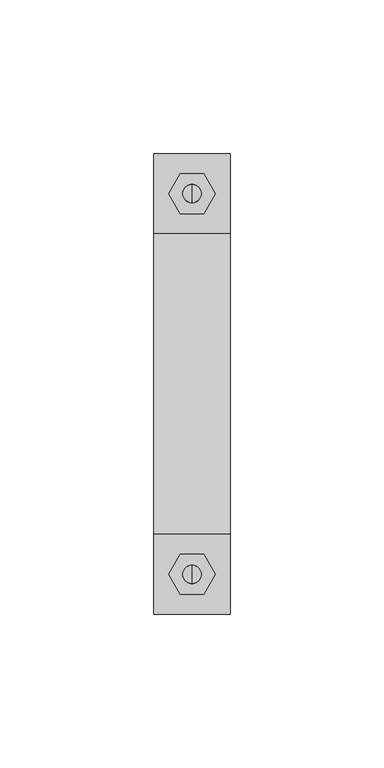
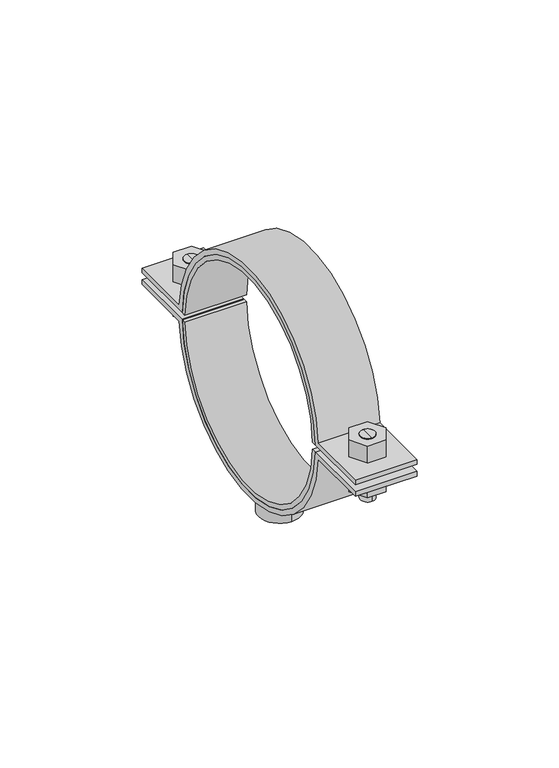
"""IFC4 building model written with IfcOpenShell, lengths in millimetres: valve geometry, Superfix DG2 Clamp (based on pipe) : Superfix DG2 Clamp (based on pipe)."""

from ifc_helpers import new_model, si_unit, point, frame, frame_2d, origin, origin_2d, place, context, project, spatial, polyline, circle_curve, trimmed, segment, composite_curve, outline, extrude, source, transform, mapped, element, save
from ifc_brep_helpers import plane_surface, cylinder_surface, advanced_brep


def valve_4bb747ad(model_context):
    return source(origin(), model_context, "Body", "SolidModel", [
        advanced_brep(
        [(0.0, 65.0, 342.4002332), (0.0, 59.0, 342.4002332), (0.0, 59.0, 357.0002332), (0.0, 65.0, 357.0002332), (0.0, 62.0, 342.4002332)],
        [
            (0, 1, circle_curve(frame((0.0, 62.0, 342.4002332), z_axis=(0.0, 0.0, 1.0), x_axis=(0.0, 1.0, 0.0)), 3.0)),
            (1, 2),
            (2, 3, circle_curve(frame((0.0, 62.0, 357.0002332), z_axis=(0.0, 0.0, -1.0), x_axis=(0.0, 1.0, 0.0)), 3.0)),
            (3, 0),
            (1, 0, circle_curve(frame((0.0, 62.0, 342.4002332), z_axis=(0.0, 0.0, 1.0), x_axis=(0.0, 1.0, 0.0)), 3.0)),
            (3, 2, circle_curve(frame((0.0, 62.0, 357.0002332), z_axis=(0.0, 0.0, -1.0), x_axis=(0.0, 1.0, 0.0)), 3.0)),
            (0, 4),
            (4, 1),
        ],
        [
            cylinder_surface(frame((0.0, 62.0, 356.7808426), z_axis=(0.0, 0.0, 1.0), x_axis=(0.0, 1.0, 0.0)), 3.0),
            plane_surface(frame((0.0, 62.0, 342.4002332), z_axis=(0.0, 0.0, -1.0), x_axis=(0.0, 1.0, 0.0))),
            plane_surface(frame((13.75, -75.0, 357.0002332), z_axis=(0.0, 0.0, 1.0), x_axis=(-1.0, 0.0, 0.0))),
        ],
        [
            (0, [[1, 2, 3, 4]]),
            (0, [[5, -4, 6, -2]]),
            (1, [[-1, 7, 8]]),
            (1, [[-5, -8, -7]]),
            (2, [[-3, -6]]),
        ],
    ),
        advanced_brep(
        [(0.0, 59.0, 369.6002332), (0.0, 65.0, 369.6002332), (0.0, 65.0, 360.0002332), (0.0, 59.0, 360.0002332), (0.0, 62.0, 369.6002332)],
        [
            (0, 1, circle_curve(frame((0.0, 62.0, 369.6002332), z_axis=(0.0, 0.0, -1.0), x_axis=(0.0, 1.0, 0.0)), 3.0)),
            (1, 2),
            (2, 3, circle_curve(frame((0.0, 62.0, 360.0002332), z_axis=(0.0, 0.0, 1.0), x_axis=(0.0, 1.0, 0.0)), 3.0)),
            (3, 0),
            (1, 0, circle_curve(frame((0.0, 62.0, 369.6002332), z_axis=(0.0, 0.0, -1.0), x_axis=(0.0, 1.0, 0.0)), 3.0)),
            (3, 2, circle_curve(frame((0.0, 62.0, 360.0002332), z_axis=(0.0, 0.0, 1.0), x_axis=(0.0, 1.0, 0.0)), 3.0)),
            (0, 4),
            (4, 1),
        ],
        [
            cylinder_surface(frame((0.0, 62.0, 356.7808426), z_axis=(0.0, 0.0, 1.0), x_axis=(0.0, 1.0, 0.0)), 3.0),
            plane_surface(frame((0.0, 62.0, 369.6002332), z_axis=(0.0, 0.0, 1.0), x_axis=(0.0, 1.0, 0.0))),
            plane_surface(frame((13.75, 75.0, 360.0002332), z_axis=(0.0, 0.0, -1.0), x_axis=(-1.0, 0.0, 0.0))),
        ],
        [
            (0, [[1, 2, 3, 4]]),
            (0, [[5, -4, 6, -2]]),
            (1, [[-1, 7, 8]]),
            (1, [[-5, -8, -7]]),
            (2, [[-3, -6]]),
        ],
    ),
        advanced_brep(
        [(0.0, -65.0, 369.6002332), (0.0, -59.0, 369.6002332), (0.0, -59.0, 360.0002332), (0.0, -65.0, 360.0002332), (0.0, -62.0, 369.6002332)],
        [
            (0, 1, circle_curve(frame((0.0, -62.0, 369.6002332), z_axis=(0.0, 0.0, -1.0), x_axis=(0.0, -1.0, 0.0)), 3.0)),
            (1, 2),
            (2, 3, circle_curve(frame((0.0, -62.0, 360.0002332), z_axis=(0.0, 0.0, 1.0), x_axis=(0.0, -1.0, 0.0)), 3.0)),
            (3, 0),
            (1, 0, circle_curve(frame((0.0, -62.0, 369.6002332), z_axis=(0.0, 0.0, -1.0), x_axis=(0.0, -1.0, 0.0)), 3.0)),
            (3, 2, circle_curve(frame((0.0, -62.0, 360.0002332), z_axis=(0.0, 0.0, 1.0), x_axis=(0.0, -1.0, 0.0)), 3.0)),
            (0, 4),
            (4, 1),
        ],
        [
            cylinder_surface(frame((0.0, -62.0, 356.7808426), z_axis=(0.0, 0.0, -1.0), x_axis=(0.0, -1.0, 0.0)), 3.0),
            plane_surface(frame((0.0, -62.0, 369.6002332), z_axis=(0.0, 0.0, 1.0), x_axis=(0.0, -1.0, 0.0))),
            plane_surface(frame((13.75, 75.0, 360.0002332), z_axis=(0.0, 0.0, -1.0), x_axis=(-1.0, 0.0, 0.0))),
        ],
        [
            (0, [[1, 2, 3, 4]]),
            (0, [[5, -4, 6, -2]]),
            (1, [[-1, 7, 8]]),
            (1, [[-5, -8, -7]]),
            (2, [[-3, -6]]),
        ],
    ),
        advanced_brep(
        [(0.0, -59.0, 342.4002332), (0.0, -65.0, 342.4002332), (0.0, -65.0, 357.0002332), (0.0, -59.0, 357.0002332), (0.0, -62.0, 342.4002332)],
        [
            (0, 1, circle_curve(frame((0.0, -62.0, 342.4002332), z_axis=(0.0, 0.0, 1.0), x_axis=(0.0, -1.0, 0.0)), 3.0)),
            (1, 2),
            (2, 3, circle_curve(frame((0.0, -62.0, 357.0002332), z_axis=(0.0, 0.0, -1.0), x_axis=(0.0, -1.0, 0.0)), 3.0)),
            (3, 0),
            (1, 0, circle_curve(frame((0.0, -62.0, 342.4002332), z_axis=(0.0, 0.0, 1.0), x_axis=(0.0, -1.0, 0.0)), 3.0)),
            (3, 2, circle_curve(frame((0.0, -62.0, 357.0002332), z_axis=(0.0, 0.0, -1.0), x_axis=(0.0, -1.0, 0.0)), 3.0)),
            (0, 4),
            (4, 1),
        ],
        [
            cylinder_surface(frame((0.0, -62.0, 356.7808426), z_axis=(0.0, 0.0, -1.0), x_axis=(0.0, -1.0, 0.0)), 3.0),
            plane_surface(frame((0.0, -62.0, 342.4002332), z_axis=(0.0, 0.0, -1.0), x_axis=(0.0, -1.0, 0.0))),
            plane_surface(frame((13.75, -75.0, 357.0002332), z_axis=(0.0, 0.0, 1.0), x_axis=(-1.0, 0.0, 0.0))),
        ],
        [
            (0, [[1, 2, 3, 4]]),
            (0, [[5, -4, 6, -2]]),
            (1, [[-1, 7, 8]]),
            (1, [[-5, -8, -7]]),
            (2, [[-3, -6]]),
        ],
    ),
        extrude(outline(composite_curve([segment(trimmed(circle_curve(frame_2d((0.0, 358.5002332)), 47.0), [point((-46.9760577, 357.0002332))], [point((46.9760577, 357.0002332))], True, "CARTESIAN"), True, "CONTINUOUS"), segment(polyline([(46.9760577, 357.0002332), (75.0, 357.0002332), (75.0, 355.0002332), (48.8748402, 355.0002332)]), True, "CONTINUOUS"), segment(trimmed(circle_curve(frame_2d((0.0, 358.5002332)), 49.0), [point((48.8748402, 355.0002332))], [point((-48.8748402, 355.0002332))], False, "CARTESIAN"), True, "CONTINUOUS"), segment(polyline([(-48.8748402, 355.0002332), (-75.0, 355.0002332), (-75.0, 357.0002332), (-46.9760577, 357.0002332)]), True, "CONTINUOUS")], self_intersect=False)), frame((-12.5, 0.0, 0.0), z_axis=(1.0, 0.0, 0.0), x_axis=(0.0, 1.0, 0.0)), (0.0, 0.0, 1.0), 25.0),
        extrude(outline(composite_curve([segment(trimmed(circle_curve(frame_2d((0.0, 358.5002332)), 47.0), [point((46.9760577, 360.0002332))], [point((-46.9760577, 360.0002332))], True, "CARTESIAN"), True, "CONTINUOUS"), segment(polyline([(-46.9760577, 360.0002332), (-75.0, 360.0002332), (-75.0, 362.0002332), (-48.8748402, 362.0002332)]), True, "CONTINUOUS"), segment(trimmed(circle_curve(frame_2d((0.0, 358.5002332)), 49.0), [point((-48.8748402, 362.0002332))], [point((48.8748402, 362.0002332))], False, "CARTESIAN"), True, "CONTINUOUS"), segment(polyline([(48.8748402, 362.0002332), (75.0, 362.0002332), (75.0, 360.0002332), (46.9760577, 360.0002332)]), True, "CONTINUOUS")], self_intersect=False)), frame((-12.5, 0.0, 0.0), z_axis=(1.0, 0.0, 0.0), x_axis=(0.0, 1.0, 0.0)), (0.0, 0.0, 1.0), 25.0),
        extrude(outline(polyline([(7.5055535, -62.0), (3.7527767, -68.5), (-3.7527767, -68.5), (-7.5055535, -62.0), (-3.7527767, -55.5), (3.7527767, -55.5), (7.5055535, -62.0)]), holes=[composite_curve([segment(trimmed(circle_curve(frame_2d((0.0, -62.0)), 3.0), [point((3.0, -62.0))], [point((-3.0, -62.0))], True, "CARTESIAN"), True, "CONTINUOUS"), segment(trimmed(circle_curve(frame_2d((0.0, -62.0)), 3.0), [point((-3.0, -62.0))], [point((3.0, -62.0))], True, "CARTESIAN"), True, "CONTINUOUS")], self_intersect=False)]), frame((0.0, 0.0, 362.0002332), z_axis=(0.0, 0.0, 1.0), x_axis=(1.0, 0.0, 0.0)), (0.0, 0.0, 1.0), 7.6),
        extrude(outline(polyline([(7.5055535, 62.0), (3.7527767, 55.5), (-3.7527767, 55.5), (-7.5055535, 62.0), (-3.7527767, 68.5), (3.7527767, 68.5), (7.5055535, 62.0)]), holes=[composite_curve([segment(trimmed(circle_curve(frame_2d((0.0, 62.0)), 3.0), [point((3.0, 62.0))], [point((-3.0, 62.0))], True, "CARTESIAN"), True, "CONTINUOUS"), segment(trimmed(circle_curve(frame_2d((0.0, 62.0)), 3.0), [point((-3.0, 62.0))], [point((3.0, 62.0))], True, "CARTESIAN"), True, "CONTINUOUS")], self_intersect=False)]), frame((0.0, 0.0, 362.0002332), z_axis=(0.0, 0.0, 1.0), x_axis=(1.0, 0.0, 0.0)), (0.0, 0.0, 1.0), 7.6),
        extrude(outline(polyline([(7.5055535, -62.0), (3.7527767, -68.5), (-3.7527767, -68.5), (-7.5055535, -62.0), (-3.7527767, -55.5), (3.7527767, -55.5), (7.5055535, -62.0)]), holes=[composite_curve([segment(trimmed(circle_curve(frame_2d((0.0, -62.0)), 3.0), [point((3.0, -62.0))], [point((-3.0, -62.0))], True, "CARTESIAN"), True, "CONTINUOUS"), segment(trimmed(circle_curve(frame_2d((0.0, -62.0)), 3.0), [point((-3.0, -62.0))], [point((3.0, -62.0))], True, "CARTESIAN"), True, "CONTINUOUS")], self_intersect=False)]), frame((0.0, 0.0, 347.4002332), z_axis=(0.0, 0.0, 1.0), x_axis=(1.0, 0.0, 0.0)), (0.0, 0.0, 1.0), 7.6),
        extrude(outline(polyline([(7.5055535, 62.0), (3.7527767, 55.5), (-3.7527767, 55.5), (-7.5055535, 62.0), (-3.7527767, 68.5), (3.7527767, 68.5), (7.5055535, 62.0)]), holes=[composite_curve([segment(trimmed(circle_curve(frame_2d((0.0, 62.0)), 3.0), [point((3.0, 62.0))], [point((-3.0, 62.0))], True, "CARTESIAN"), True, "CONTINUOUS"), segment(trimmed(circle_curve(frame_2d((0.0, 62.0)), 3.0), [point((-3.0, 62.0))], [point((3.0, 62.0))], True, "CARTESIAN"), True, "CONTINUOUS")], self_intersect=False)]), frame((0.0, 0.0, 347.4002332), z_axis=(0.0, 0.0, 1.0), x_axis=(1.0, 0.0, 0.0)), (0.0, 0.0, 1.0), 7.6),
        extrude(outline(composite_curve([segment(trimmed(circle_curve(origin_2d(), 8.5), [point((0.0, 8.5))], [point((0.0, -8.5))], False, "CARTESIAN"), True, "CONTINUOUS"), segment(trimmed(circle_curve(origin_2d(), 8.5), [point((0.0, -8.5))], [point((0.0, 8.5))], False, "CARTESIAN"), True, "CONTINUOUS")], self_intersect=False), holes=[composite_curve([segment(trimmed(circle_curve(origin_2d(), 5.0), [point((0.0, 5.0))], [point((0.0, -5.0))], True, "CARTESIAN"), True, "CONTINUOUS"), segment(trimmed(circle_curve(origin_2d(), 5.0), [point((0.0, -5.0))], [point((0.0, 5.0))], True, "CARTESIAN"), True, "CONTINUOUS")], self_intersect=False)]), frame((0.0, 0.0, 299.5002332), z_axis=(0.0, 0.0, 1.0), x_axis=(1.0, 0.0, 0.0)), (0.0, 0.0, 1.0), 12.0),
        extrude(outline(composite_curve([segment(trimmed(circle_curve(frame_2d((0.0, 358.5002332)), 45.0), [point((44.9749931, 360.0002332))], [point((-44.9749931, 360.0002332))], True, "CARTESIAN"), True, "CONTINUOUS"), segment(polyline([(-44.9749931, 360.0002332), (-46.9760577, 360.0002332)]), True, "CONTINUOUS"), segment(trimmed(circle_curve(frame_2d((0.0, 358.5002332)), 47.0), [point((-46.9760577, 360.0002332))], [point((46.9760577, 360.0002332))], False, "CARTESIAN"), True, "CONTINUOUS"), segment(polyline([(46.9760577, 360.0002332), (44.9749931, 360.0002332)]), True, "CONTINUOUS")], self_intersect=False)), frame((-12.5, 0.0, 0.0), z_axis=(1.0, 0.0, 0.0), x_axis=(0.0, 1.0, 0.0)), (0.0, 0.0, 1.0), 25.0),
        extrude(outline(composite_curve([segment(polyline([(44.9749931, 357.0002332), (46.9760577, 357.0002332)]), True, "CONTINUOUS"), segment(trimmed(circle_curve(frame_2d((0.0, 358.5002332)), 47.0), [point((46.9760577, 357.0002332))], [point((-46.9760577, 357.0002332))], False, "CARTESIAN"), True, "CONTINUOUS"), segment(polyline([(-46.9760577, 357.0002332), (-44.9749931, 357.0002332)]), True, "CONTINUOUS"), segment(trimmed(circle_curve(frame_2d((0.0, 358.5002332)), 45.0), [point((-44.9749931, 357.0002332))], [point((44.9749931, 357.0002332))], True, "CARTESIAN"), True, "CONTINUOUS")], self_intersect=False)), frame((-12.5, 0.0, 0.0), z_axis=(1.0, 0.0, 0.0), x_axis=(0.0, 1.0, 0.0)), (0.0, 0.0, 1.0), 25.0),
    ])


if __name__ == "__main__":
    model = new_model("IFC4")
    model_context = context("Model", 3, world=origin())
    ifc_project = project(units=[si_unit("LENGTHUNIT", "METRE", prefix="MILLI")], contexts=[model_context])
    site = spatial("IfcSite", under=ifc_project)
    building = spatial("IfcBuilding", under=site)
    placement = place(None, origin())
    valve_shape = valve_4bb747ad(model_context)
    element("IfcValve", 1, ObjectType="Superfix DG2 Clamp (based on pipe) : Superfix DG2 Clamp (based on pipe)", at=placement, inside=building, context=model_context, shape_type="MappedRepresentation", body=[
        mapped(valve_shape, transform((0.0, 0.0, 0.0), x_axis=(1.0, 0.0, 0.0), y_axis=(0.0, 1.0, 0.0), z_axis=(0.0, 0.0, 1.0))),
    ])
    save(model, "model.ifc")
